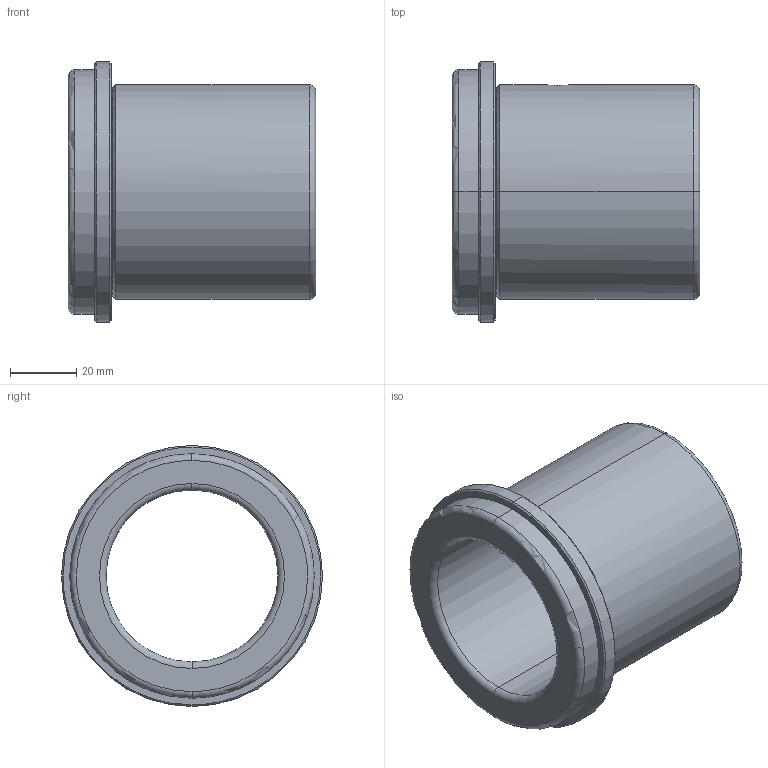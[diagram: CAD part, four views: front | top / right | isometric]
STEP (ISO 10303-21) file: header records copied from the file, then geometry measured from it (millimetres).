
FILE_DESCRIPTION(('CATIA V5 STEP Exchange'),'2;1');
FILE_NAME('C:\Users\Utente\Desktop\IO LAVORO\3D X SITO CF\X SITO\FAMO\FAMO-SF1-B52 x 75.stp','2021-01-06T15:54:44+00:00',('none'),('none'),'CATIA Version 5 Release 20 GA (IN-10)','CATIA V5 STEP AP203','none');
FILE_SCHEMA(('CONFIG_CONTROL_DESIGN'));
Length unit declared in the file: millimetre
Products named in the file (1): FAMO-SF1-B52 x 75
Bounding box: 75 x 79 x 79 mm (x, y, z)
Volume: 103751.8 mm3; surface area: 33395 mm2
Topology: 1 solids, 1 shells, 33 faces, 114 edges, 86 vertices
Faces by surface type: cylinder 12, torus 8, cone 8, plane 5
Entity records: 1561 total; most frequent: CARTESIAN_POINT 545, ORIENTED_EDGE 228, DIRECTION 156, EDGE_CURVE 114, AXIS2_PLACEMENT_3D 104, VERTEX_POINT 86, CIRCLE 70, EDGE_LOOP 40
